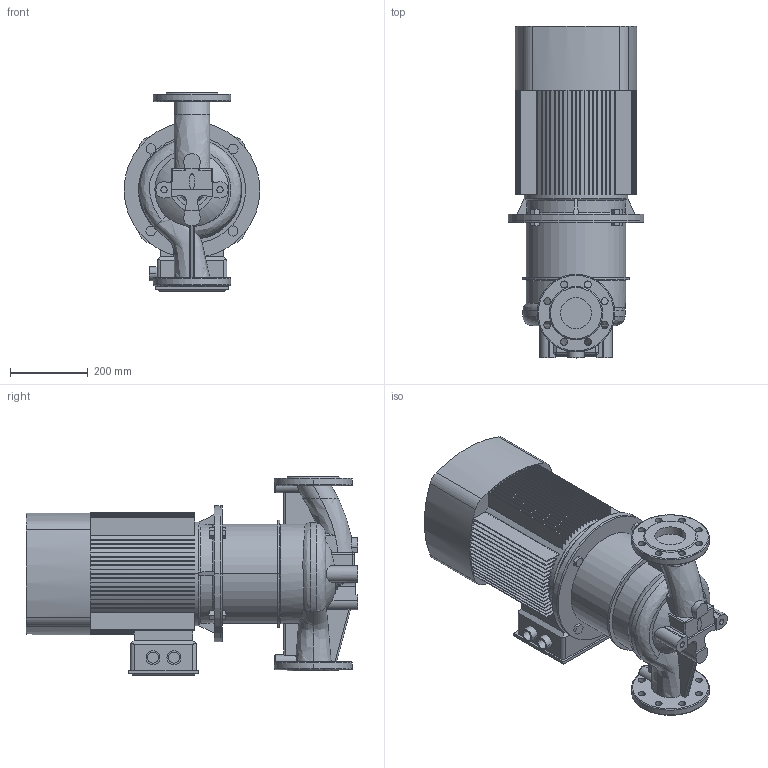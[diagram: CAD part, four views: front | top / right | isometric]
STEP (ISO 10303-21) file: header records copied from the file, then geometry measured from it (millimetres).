
FILE_DESCRIPTION (( 'STEP AP203' ), '1' );
FILE_NAME ('TD80-48G_2.STEP', '2022-05-01T13:13:24', ( '' ), ( '' ), 'SwSTEP 2.0', 'SolidWorks 2019', '' );
FILE_SCHEMA (( 'CONFIG_CONTROL_DESIGN' ));
Length unit declared in the file: millimetre
Products named in the file (4): Pr_ch 80_TD80-48G_2; TD80-48G_2; ED_B5_YE2-160M2-2 (15); Fon_80_TD80-48G_2
Assembly tree (3 placements, depth 2):
  TD80-48G_2
    Pr_ch 80_TD80-48G_2
    Fon_80_TD80-48G_2
    ED_B5_YE2-160M2-2 (15)
Bounding box: 350 x 855 x 511 mm (x, y, z)
Volume: 49091213.6 mm3; surface area: 2714132.2 mm2
Topology: 13 solids, 15 shells, 739 faces, 2009 edges, 1331 vertices
Faces by surface type: plane 504, cylinder 160, torus 29, bspline 27, cone 17, sphere 2
Entity records: 30603 total; most frequent: CARTESIAN_POINT 11230, ORIENTED_EDGE 4014, DIRECTION 3944, EDGE_CURVE 2007, AXIS2_PLACEMENT_3D 1377, VERTEX_POINT 1331, VECTOR 1190, LINE 1190
